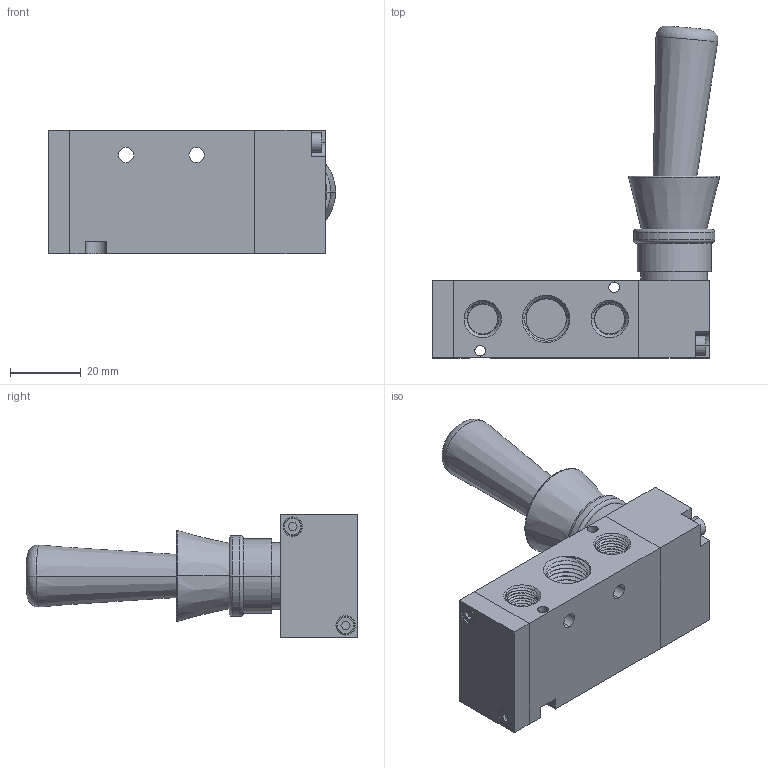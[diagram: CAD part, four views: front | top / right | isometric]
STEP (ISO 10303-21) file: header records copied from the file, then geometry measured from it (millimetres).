
FILE_DESCRIPTION (( 'STEP AP203' ), '1' );
FILE_NAME ('H220-5-G02.STEP', '2022-10-25T02:35:19', ( '' ), ( '' ), 'SwSTEP 2.0', 'SolidWorks 2022', '' );
FILE_SCHEMA (( 'CONFIG_CONTROL_DESIGN' ));
Length unit declared in the file: millimetre
Products named in the file (1): H220-5-G02
Bounding box: 81.41 x 94.11 x 35 mm (x, y, z)
Volume: 71890.8 mm3; surface area: 19544.4 mm2
Topology: 1 solids, 2 shells, 1186 faces, 3272 edges, 2170 vertices
Faces by surface type: plane 644, bspline 366, cylinder 144, cone 19, torus 10, sphere 3
Entity records: 68269 total; most frequent: CARTESIAN_POINT 40850, ORIENTED_EDGE 6544, DIRECTION 4076, EDGE_CURVE 3272, LINE 2182, VECTOR 2182, VERTEX_POINT 2170, EDGE_LOOP 1274
